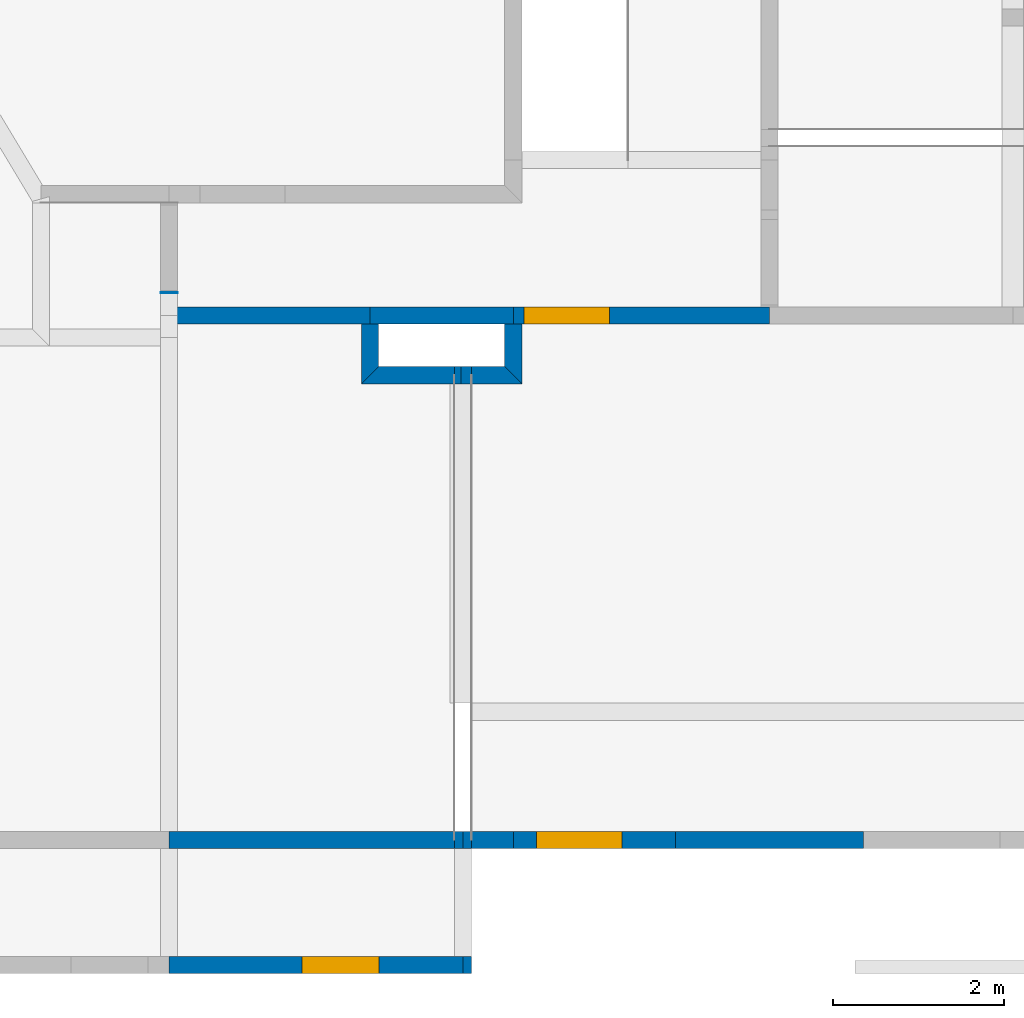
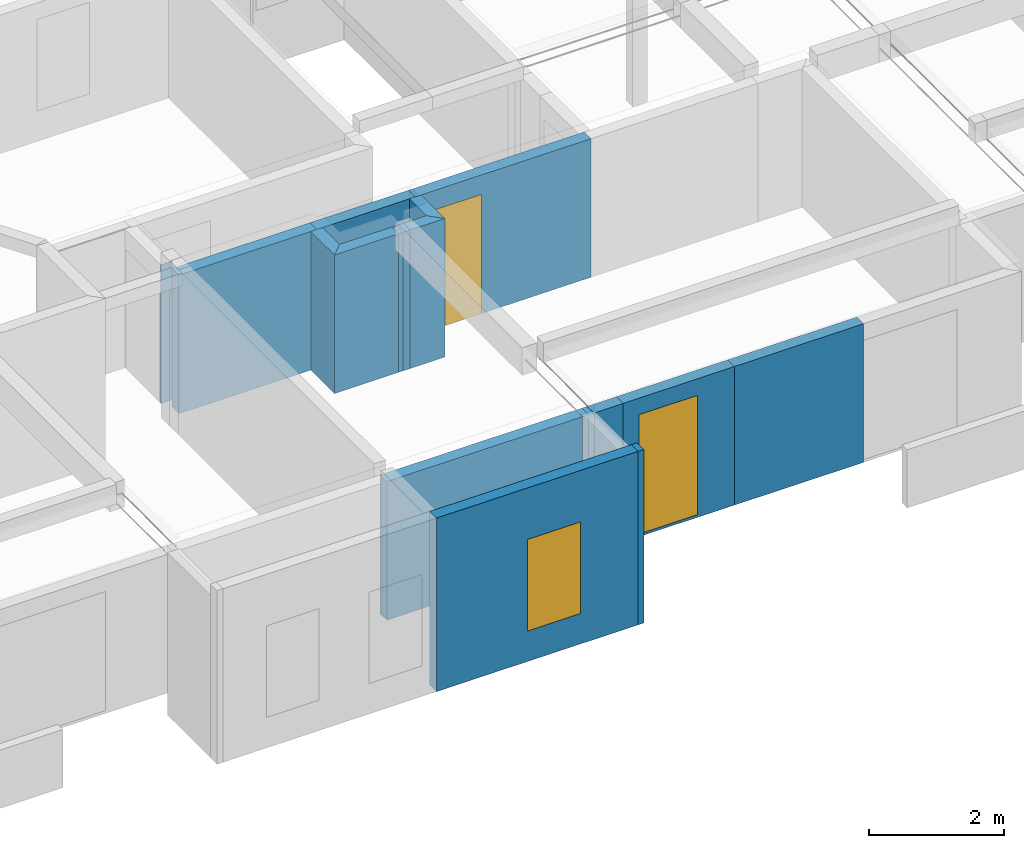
# One storey, part 5 of 8: 18 walls, 2 windows, 1 door, 3 openings.
"""IFC2X3 building model written with IfcOpenShell, lengths in metres."""

from ifc_helpers import new_model, si_unit, direction, frame, origin_with_axes, origin_2d, place, context, subcontext, project, spatial, polyline, rectangle, outline, extrude, material, layer, layer_set, layer_usage, type_object, element, fill, save


model = new_model("IFC2X3")

# Units and contexts
model_context = context("Model", 3, precision=0.0001, world=origin_with_axes(), true_north=direction((0.0, 1.0)))
plan_context = context("Plan", 2, precision=0.0001, world=origin_with_axes(), true_north=direction((0.0, 1.0)))
body_context = subcontext(model_context, "Body", "Model", "MODEL_VIEW")
ifc_project = project(units=[si_unit("MASSUNIT", "GRAM", prefix="KILO"), si_unit("AREAUNIT", "SQUARE_METRE"), si_unit("LENGTHUNIT", "METRE"), si_unit("VOLUMEUNIT", "CUBIC_METRE")], contexts=[plan_context, model_context])

# Site, building, storey
site_placement = place(None, origin_with_axes())
site = spatial("IfcSite", under=ifc_project, at=site_placement, Name="$", CompositionType="ELEMENT")
building_placement = place(site_placement, origin_with_axes())
building = spatial("IfcBuilding", under=site, at=building_placement, Name="Classeur ENS Ensemble", CompositionType="ELEMENT")
storey_placement = place(building_placement, frame((-20.30778888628, -1.812671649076, 3.3), z_axis=(0.0, 0.0, 1.0), x_axis=(1.0, 0.0, 0.0)))
storey = spatial("IfcBuildingStorey", under=building, at=storey_placement, Name="002 R+1", CompositionType="ELEMENT", Elevation=3.3)

# Walls
ifc_material_1 = material(Name="mur BBM 20 cm")
ifc_layer_1 = layer(ifc_material_1, 0.2000000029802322)
ifc_layer_set_1 = layer_set([ifc_layer_1], Name="mur BBM 20 cm+")
ifc_layer_usage_1 = layer_usage(ifc_layer_set_1, "AXIS2", "POSITIVE", -0.1000000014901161)
wall_type = type_object("IfcWallType", PredefinedType="STANDARD")
wall_1_placement = place(storey_placement, frame((33.28339579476, -11.56732532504, 0.0), z_axis=(0.0, 0.0, 1.0), x_axis=(1.0, 0.0, 0.0)))
element("IfcWall", 1, at=wall_1_placement, inside=storey, type_object=wall_type, material=ifc_layer_usage_1, Name="mur BBM 20 cm", context=body_context, shape_type="SweptSolid", held_by="IfcProductRepresentation", body=[
    extrude(outline(polyline([(0.0, 0.1000000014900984), (0.0, 0.1000000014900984), (0.0, 0.1000000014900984), (2.200000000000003, 0.1000000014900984), (2.200000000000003, 0.1000000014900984), (2.200000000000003, 0.1000000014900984), (2.200000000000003, -0.1000000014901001), (2.200000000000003, -0.1000000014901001), (2.200000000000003, -0.1000000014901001), (0.0, -0.1000000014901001), (0.0, -0.1000000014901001), (0.0, -0.1000000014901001), (0.0, 0.1000000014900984)])), origin_with_axes(), (0.0, 0.0, 1.0), 2.5),
])
ifc_material_2 = material(Name="voile BA 20 cm")
ifc_layer_2 = layer(ifc_material_2, 0.2000000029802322)
ifc_layer_set_2 = layer_set([ifc_layer_2], Name="voile BA 20 cm+")
ifc_layer_usage_2 = layer_usage(ifc_layer_set_2, "AXIS2", "POSITIVE", -0.1000000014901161)
wall_2_placement = place(storey_placement, frame((31.38339579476, -6.127325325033, 0.0), z_axis=(0.0, 0.0, 1.0), x_axis=(0.0, 0.9999999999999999, 0.0)))
element("IfcWall", 2, at=wall_2_placement, inside=storey, type_object=wall_type, material=ifc_layer_usage_2, Name="voile BA 20 cm", context=body_context, shape_type="SweptSolid", held_by="IfcProductRepresentation", body=[
    extrude(outline(polyline([(0.1000000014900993, 0.1000000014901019), (0.1000000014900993, 0.1000000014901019), (0.1000000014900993, 0.1000000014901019), (0.5999999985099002, 0.1000000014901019), (0.5999999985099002, 0.1000000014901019), (0.5999999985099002, 0.1000000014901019), (0.5999999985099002, -0.1000000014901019), (0.5999999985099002, -0.1000000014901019), (0.5999999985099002, -0.1000000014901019), (-0.1000000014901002, -0.1000000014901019), (-0.1000000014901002, -0.1000000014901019), (-0.1000000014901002, -0.1000000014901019), (0.1000000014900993, 0.1000000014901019)])), origin_with_axes(), (0.0, 0.0, 1.0), 2.5),
])
ifc_material_3 = material(Name="mur BBM 20 cm")
ifc_layer_3 = layer(ifc_material_3, 0.2000000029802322)
ifc_layer_set_3 = layer_set([ifc_layer_3], Name="mur BBM 20 cm+")
ifc_layer_usage_3 = layer_usage(ifc_layer_set_3, "AXIS2", "POSITIVE", -0.1000000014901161)
wall_3_placement = place(storey_placement, frame((27.35339579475, -11.56732532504, 0.0), z_axis=(0.0, 0.0, 1.0), x_axis=(1.0, 0.0, 0.0)))
element("IfcWall", 3, at=wall_3_placement, inside=storey, type_object=wall_type, material=ifc_layer_usage_3, Name="mur BBM 20 cm", context=body_context, shape_type="SweptSolid", held_by="IfcProductRepresentation", body=[
    extrude(outline(polyline([(0.0, 0.1000000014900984), (0.0, 0.1000000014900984), (0.0, 0.1000000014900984), (3.340000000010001, 0.1000000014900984), (3.340000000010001, 0.1000000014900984), (3.340000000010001, 0.1000000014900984), (3.340000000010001, -0.1000000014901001), (3.340000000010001, -0.1000000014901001), (3.340000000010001, -0.1000000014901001), (0.0, -0.1000000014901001), (0.0, -0.1000000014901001), (0.0, -0.1000000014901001), (0.0, 0.1000000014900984)])), origin_with_axes(), (0.0, 0.0, 1.0), 2.5),
])

# Wall, opening, window
ifc_material_4 = material(Name="mur BBM 20 cm")
ifc_layer_4 = layer(ifc_material_4, 0.2000000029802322)
ifc_layer_set_4 = layer_set([ifc_layer_4], Name="mur BBM 20 cm+")
ifc_layer_usage_4 = layer_usage(ifc_layer_set_4, "AXIS2", "POSITIVE", -0.1000000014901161)
wall_4_placement = place(storey_placement, frame((31.38339579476, -11.56732532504, 0.0), z_axis=(0.0, 0.0, 1.0), x_axis=(1.0, 0.0, 0.0)))
wall_4 = element("IfcWall", 4, at=wall_4_placement, inside=storey, type_object=wall_type, material=ifc_layer_usage_4, Name="mur BBM 20 cm", context=body_context, shape_type="SweptSolid", held_by="IfcProductRepresentation", body=[
    extrude(outline(polyline([(0.0, 0.1000000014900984), (0.0, 0.1000000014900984), (0.0, 0.1000000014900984), (1.899999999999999, 0.1000000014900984), (1.899999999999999, 0.1000000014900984), (1.899999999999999, 0.1000000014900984), (1.899999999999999, -0.1000000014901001), (1.899999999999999, -0.1000000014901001), (1.899999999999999, -0.1000000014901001), (0.0, -0.1000000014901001), (0.0, -0.1000000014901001), (0.0, -0.1000000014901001), (0.0, 0.1000000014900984)])), origin_with_axes(), (0.0, 0.0, 1.0), 2.5),
])
opening_1_placement = place(wall_4_placement, frame((0.772012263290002, 0.1000000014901, 0.05000000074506), z_axis=(0.0, 0.0, 1.0), x_axis=(1.0, 0.0, 0.0)))
opening_1 = element("IfcOpeningElement", 5, at=opening_1_placement, cuts=wall_4, Name="BL 100 x 215", context=body_context, shape_type="SweptSolid", held_by="IfcProductRepresentation", body=[
    extrude(rectangle(XDim=1.0, YDim=2.150000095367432, at=origin_2d()), frame((0.0, 0.0, 1.075000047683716), z_axis=(0.0, -1.0, 0.0), x_axis=(1.0, 0.0, 0.0)), (0.0, 0.0, 1.0), 0.2000000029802),
])
window_1_placement = place(opening_1_placement, origin_with_axes())
window_1 = element("IfcWindow", 6, at=window_1_placement, inside=storey, Name="BL 100 x 215", OverallHeight=2.150000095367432, OverallWidth=1.0, context=body_context, shape_type="SweptSolid", held_by="IfcProductRepresentation", body=[
    extrude(rectangle(XDim=1.0, YDim=2.150000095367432, at=origin_2d()), frame((0.0, 0.0, 1.075000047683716), z_axis=(0.0, -1.0, 0.0), x_axis=(1.0, 0.0, 0.0)), (0.0, 0.0, 1.0), 0.2000000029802),
])
fill(opening_1, window_1)

# Walls
ifc_material_5 = material(Name="mur BBM 20 cm")
ifc_layer_5 = layer(ifc_material_5, 0.2000000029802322)
ifc_layer_set_5 = layer_set([ifc_layer_5], Name="mur BBM 20 cm+")
ifc_layer_usage_5 = layer_usage(ifc_layer_set_5, "AXIS2", "POSITIVE", -0.1000000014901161)
wall_5_placement = place(storey_placement, frame((30.79339579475, -11.56732532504, 0.0), z_axis=(0.0, 0.0, 1.0), x_axis=(1.0, 0.0, 0.0)))
element("IfcWall", 7, at=wall_5_placement, inside=storey, type_object=wall_type, material=ifc_layer_usage_5, Name="mur BBM 20 cm", context=body_context, shape_type="SweptSolid", held_by="IfcProductRepresentation", body=[
    extrude(outline(polyline([(0.0, 0.1000000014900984), (0.0, 0.1000000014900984), (0.0, 0.1000000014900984), (0.1000000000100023, 0.1000000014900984), (0.1000000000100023, 0.1000000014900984), (0.1000000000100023, 0.1000000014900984), (0.1000000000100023, -0.1000000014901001), (0.1000000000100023, -0.1000000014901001), (0.1000000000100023, -0.1000000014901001), (0.0, -0.1000000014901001), (0.0, -0.1000000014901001), (0.0, -0.1000000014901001), (0.0, 0.1000000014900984)])), origin_with_axes(), (0.0, 0.0, 1.0), 2.5),
])
ifc_material_6 = material(Name="mur BBM 20 cm")
ifc_layer_6 = layer(ifc_material_6, 0.2000000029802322)
ifc_layer_set_6 = layer_set([ifc_layer_6], Name="mur BBM 20 cm+")
ifc_layer_usage_6 = layer_usage(ifc_layer_set_6, "AXIS2", "POSITIVE", -0.1000000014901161)
wall_6_placement = place(storey_placement, frame((27.35339579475, -5.167020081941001, 0.0), z_axis=(0.0, 0.0, 1.0), x_axis=(0.0, 1.0, 0.0)))
element("IfcWall", 8, at=wall_6_placement, inside=storey, type_object=wall_type, material=ifc_layer_usage_6, Name="mur BBM 20 cm", context=body_context, shape_type="SweptSolid", held_by="IfcProductRepresentation", body=[
    extrude(outline(polyline([(0.0, 0.1000000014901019), (0.0, 0.1000000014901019), (0.0, 0.1000000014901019), (0.009694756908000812, 0.1000000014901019), (0.009694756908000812, 0.1000000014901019), (0.009694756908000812, 0.1000000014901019), (0.009694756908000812, -0.1000000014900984), (0.009694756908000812, -0.1000000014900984), (0.009694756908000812, -0.1000000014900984), (0.0, -0.1000000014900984), (0.0, -0.1000000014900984), (0.0, -0.1000000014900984), (0.0, 0.1000000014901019)])), origin_with_axes(), (0.0, 0.0, 1.0), 2.5),
])
ifc_material_7 = material(Name="voile BA 20 cm")
ifc_layer_7 = layer(ifc_material_7, 0.2000000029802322)
ifc_layer_set_7 = layer_set([ifc_layer_7], Name="voile BA 20 cm+")
ifc_layer_usage_7 = layer_usage(ifc_layer_set_7, "AXIS2", "POSITIVE", -0.1000000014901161)
wall_7_placement = place(storey_placement, frame((27.35339579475, -5.427325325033, 0.0), z_axis=(0.0, 0.0, 1.0), x_axis=(1.0, 0.0, 0.0)))
element("IfcWall", 9, at=wall_7_placement, inside=storey, type_object=wall_type, material=ifc_layer_usage_7, Name="voile BA 20 cm", context=body_context, shape_type="SweptSolid", held_by="IfcProductRepresentation", body=[
    extrude(outline(polyline([(0.0, 0.1000000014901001), (0.0, 0.1000000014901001), (0.0, 0.1000000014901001), (2.349999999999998, 0.1000000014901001), (2.349999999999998, 0.1000000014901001), (2.349999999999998, 0.1000000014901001), (2.349999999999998, -0.1000000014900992), (2.249999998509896, -0.1000000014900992), (2.249999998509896, -0.1000000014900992), (0.0, -0.1000000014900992), (0.0, -0.1000000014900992), (0.0, -0.1000000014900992), (0.0, 0.1000000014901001)])), origin_with_axes(), (0.0, 0.0, 1.0), 2.5),
])

# Wall, opening, door
ifc_material_8 = material(Name="voile BA 20 cm")
ifc_layer_8 = layer(ifc_material_8, 0.2000000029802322)
ifc_layer_set_8 = layer_set([ifc_layer_8], Name="voile BA 20 cm+")
ifc_layer_usage_8 = layer_usage(ifc_layer_set_8, "AXIS2", "POSITIVE", -0.1000000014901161)
wall_8_placement = place(storey_placement, frame((31.38339579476, -5.427325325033, 0.0), z_axis=(0.0, 0.0, 1.0), x_axis=(1.0, 0.0, 0.0)))
wall_8 = element("IfcWall", 10, at=wall_8_placement, inside=storey, type_object=wall_type, material=ifc_layer_usage_8, Name="voile BA 20 cm", context=body_context, shape_type="SweptSolid", held_by="IfcProductRepresentation", body=[
    extrude(outline(polyline([(0.0, 0.1000000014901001), (0.0, 0.1000000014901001), (0.0, 0.1000000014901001), (2.899999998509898, 0.1000000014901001), (2.899999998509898, 0.1000000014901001), (3.0, 0.1000000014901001), (3.0, -0.1000000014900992), (3.0, -0.1000000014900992), (3.0, -0.1000000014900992), (0.1000000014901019, -0.1000000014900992), (0.1000000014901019, -0.1000000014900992), (0.0, -0.1000000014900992), (0.0, 0.1000000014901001)])), origin_with_axes(), (0.0, 0.0, 1.0), 2.5),
])
opening_2_placement = place(wall_8_placement, frame((0.6281936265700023, 0.1000000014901, 0.0), z_axis=(0.0, 0.0, 1.0), x_axis=(1.0, 0.0, 0.0)))
opening_2 = element("IfcOpeningElement", 11, at=opening_2_placement, cuts=wall_8, Name="PE 93 x 215", context=body_context, shape_type="SweptSolid", held_by="IfcProductRepresentation", body=[
    extrude(rectangle(XDim=1.0, YDim=2.150000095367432, at=origin_2d()), frame((0.0, 0.0, 1.075000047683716), z_axis=(0.0, -1.0, 0.0), x_axis=(1.0, 0.0, 0.0)), (0.0, 0.0, 1.0), 0.2000000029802),
])
door_placement = place(opening_2_placement, origin_with_axes())
door = element("IfcDoor", 12, at=door_placement, inside=storey, Name="PE 93 x 215", OverallHeight=2.150000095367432, OverallWidth=1.0, context=body_context, shape_type="SweptSolid", held_by="IfcProductRepresentation", body=[
    extrude(rectangle(XDim=1.0, YDim=2.150000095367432, at=origin_2d()), frame((0.0, 0.0, 1.075000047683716), z_axis=(0.0, -1.0, 0.0), x_axis=(1.0, 0.0, 0.0)), (0.0, 0.0, 1.0), 0.2000000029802),
])
fill(opening_2, door)

# Walls
ifc_material_9 = material(Name="voile BA 20 cm")
ifc_layer_9 = layer(ifc_material_9, 0.2000000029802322)
ifc_layer_set_9 = layer_set([ifc_layer_9], Name="voile BA 20 cm+")
ifc_layer_usage_9 = layer_usage(ifc_layer_set_9, "AXIS2", "POSITIVE", -0.1000000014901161)
wall_9_placement = place(storey_placement, frame((29.70339579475, -6.127325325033, 0.0), z_axis=(0.0, 0.0, 1.0), x_axis=(0.0, 0.9999999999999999, 0.0)))
element("IfcWall", 13, at=wall_9_placement, inside=storey, type_object=wall_type, material=ifc_layer_usage_9, Name="voile BA 20 cm", context=body_context, shape_type="SweptSolid", held_by="IfcProductRepresentation", body=[
    extrude(outline(polyline([(-0.1000000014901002, 0.1000000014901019), (-0.1000000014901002, 0.1000000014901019), (-0.1000000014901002, 0.1000000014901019), (0.5999999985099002, 0.1000000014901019), (0.5999999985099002, 0.1000000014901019), (0.5999999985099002, 0.1000000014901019), (0.5999999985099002, -0.1000000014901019), (0.5999999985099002, -0.1000000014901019), (0.5999999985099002, -0.1000000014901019), (0.1000000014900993, -0.1000000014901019), (0.1000000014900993, -0.1000000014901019), (0.1000000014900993, -0.1000000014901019), (-0.1000000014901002, 0.1000000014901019)])), origin_with_axes(), (0.0, 0.0, 1.0), 2.5),
])
ifc_material_10 = material(Name="voile BA 20 cm")
ifc_layer_10 = layer(ifc_material_10, 0.2000000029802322)
ifc_layer_set_10 = layer_set([ifc_layer_10], Name="voile BA 20 cm+")
ifc_layer_usage_10 = layer_usage(ifc_layer_set_10, "AXIS2", "POSITIVE", -0.1000000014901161)
wall_10_placement = place(storey_placement, frame((29.70339579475, -5.427325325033, 0.0), z_axis=(0.0, 0.0, 1.0), x_axis=(1.0, 0.0, 0.0)))
element("IfcWall", 14, at=wall_10_placement, inside=storey, type_object=wall_type, material=ifc_layer_usage_10, Name="voile BA 20 cm", context=body_context, shape_type="SweptSolid", held_by="IfcProductRepresentation", body=[
    extrude(outline(polyline([(0.0, 0.1000000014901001), (0.0, 0.1000000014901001), (0.0, 0.1000000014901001), (1.680000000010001, 0.1000000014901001), (1.680000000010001, 0.1000000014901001), (1.680000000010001, 0.1000000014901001), (1.680000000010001, -0.1000000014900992), (1.579999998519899, -0.1000000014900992), (1.579999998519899, -0.1000000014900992), (0.1000000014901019, -0.1000000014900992), (0.1000000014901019, -0.1000000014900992), (0.0, -0.1000000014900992), (0.0, 0.1000000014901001)])), origin_with_axes(), (0.0, 0.0, 1.0), 2.5),
])
ifc_material_11 = material(Name="voile BA 20 cm")
ifc_layer_11 = layer(ifc_material_11, 0.2000000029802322)
ifc_layer_set_11 = layer_set([ifc_layer_11], Name="voile BA 20 cm+")
ifc_layer_usage_11 = layer_usage(ifc_layer_set_11, "AXIS2", "POSITIVE", -0.1000000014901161)
wall_11_placement = place(storey_placement, frame((29.70339579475, -6.127325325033, 0.0), z_axis=(0.0, 0.0, 1.0), x_axis=(1.0, 0.0, 0.0)))
element("IfcWall", 15, at=wall_11_placement, inside=storey, type_object=wall_type, material=ifc_layer_usage_11, Name="voile BA 20 cm", context=body_context, shape_type="SweptSolid", held_by="IfcProductRepresentation", body=[
    extrude(outline(polyline([(0.1000000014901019, 0.1000000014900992), (0.1000000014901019, 0.1000000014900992), (0.1000000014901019, 0.1000000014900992), (0.9900000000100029, 0.1000000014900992), (0.9900000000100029, 0.1000000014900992), (0.9900000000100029, 0.1000000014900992), (0.9900000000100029, -0.1000000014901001), (0.9900000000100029, -0.1000000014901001), (0.9900000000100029, -0.1000000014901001), (-0.1000000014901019, -0.1000000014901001), (-0.1000000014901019, -0.1000000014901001), (-0.1000000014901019, -0.1000000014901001), (0.1000000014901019, 0.1000000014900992)])), origin_with_axes(), (0.0, 0.0, 1.0), 2.5),
])
ifc_material_12 = material(Name="mur BBM 20 cm")
ifc_layer_12 = layer(ifc_material_12, 0.2000000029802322)
ifc_layer_set_12 = layer_set([ifc_layer_12], Name="mur BBM 20 cm+")
ifc_layer_usage_12 = layer_usage(ifc_layer_set_12, "AXIS2", "POSITIVE", -0.1000000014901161)
wall_12_placement = place(storey_placement, frame((30.89339579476, -11.56732532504, 0.0), z_axis=(0.0, 0.0, 1.0), x_axis=(1.0, 0.0, 0.0)))
element("IfcWall", 16, at=wall_12_placement, inside=storey, type_object=wall_type, material=ifc_layer_usage_12, Name="mur BBM 20 cm", context=body_context, shape_type="SweptSolid", held_by="IfcProductRepresentation", body=[
    extrude(outline(polyline([(0.0, 0.1000000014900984), (0.0, 0.1000000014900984), (0.0, 0.1000000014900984), (0.4899999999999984, 0.1000000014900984), (0.4899999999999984, 0.1000000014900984), (0.4899999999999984, 0.1000000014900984), (0.4899999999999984, -0.1000000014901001), (0.4899999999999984, -0.1000000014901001), (0.4899999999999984, -0.1000000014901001), (0.0, -0.1000000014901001), (0.0, -0.1000000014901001), (0.0, -0.1000000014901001), (0.0, 0.1000000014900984)])), origin_with_axes(), (0.0, 0.0, 1.0), 2.5),
])
ifc_material_13 = material(Name="mur BBM 20 cm")
ifc_layer_13 = layer(ifc_material_13, 0.2000000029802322)
ifc_layer_set_13 = layer_set([ifc_layer_13], Name="mur BBM 20 cm+")
ifc_layer_usage_13 = layer_usage(ifc_layer_set_13, "AXIS2", "POSITIVE", -0.1000000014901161)
wall_13_placement = place(storey_placement, frame((30.69339579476, -11.56732532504, 0.0), z_axis=(0.0, 0.0, 1.0), x_axis=(1.0, 0.0, 0.0)))
element("IfcWall", 17, at=wall_13_placement, inside=storey, type_object=wall_type, material=ifc_layer_usage_13, Name="mur BBM 20 cm", context=body_context, shape_type="SweptSolid", held_by="IfcProductRepresentation", body=[
    extrude(outline(polyline([(0.0, 0.1000000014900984), (0.0, 0.1000000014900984), (0.0, 0.1000000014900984), (0.09999999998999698, 0.1000000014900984), (0.09999999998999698, 0.1000000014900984), (0.09999999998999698, 0.1000000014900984), (0.09999999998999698, -0.1000000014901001), (0.09999999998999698, -0.1000000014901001), (0.09999999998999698, -0.1000000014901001), (0.0, -0.1000000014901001), (0.0, -0.1000000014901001), (0.0, -0.1000000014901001), (0.0, 0.1000000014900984)])), origin_with_axes(), (0.0, 0.0, 1.0), 2.5),
])
ifc_material_14 = material(Name="voile BA 20 cm")
ifc_layer_14 = layer(ifc_material_14, 0.2000000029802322)
ifc_layer_set_14 = layer_set([ifc_layer_14], Name="voile BA 20 cm+")
ifc_layer_usage_14 = layer_usage(ifc_layer_set_14, "AXIS2", "POSITIVE", -0.1000000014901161)
wall_14_placement = place(storey_placement, frame((30.69339579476, -6.127325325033, 0.0), z_axis=(0.0, 0.0, 1.0), x_axis=(1.0, 0.0, 0.0)))
element("IfcWall", 18, at=wall_14_placement, inside=storey, type_object=wall_type, material=ifc_layer_usage_14, Name="voile BA 20 cm", context=body_context, shape_type="SweptSolid", held_by="IfcProductRepresentation", body=[
    extrude(outline(polyline([(0.0, 0.1000000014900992), (0.0, 0.1000000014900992), (0.0, 0.1000000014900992), (0.07499999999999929, 0.1000000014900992), (0.07499999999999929, 0.1000000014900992), (0.07499999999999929, 0.1000000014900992), (0.07499999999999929, -0.1000000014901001), (0.07499999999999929, -0.1000000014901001), (0.07499999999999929, -0.1000000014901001), (0.0, -0.1000000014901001), (0.0, -0.1000000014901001), (0.0, -0.1000000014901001), (0.0, 0.1000000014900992)])), origin_with_axes(), (0.0, 0.0, 1.0), 2.5),
])
ifc_material_15 = material(Name="voile BA 20 cm")
ifc_layer_15 = layer(ifc_material_15, 0.2000000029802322)
ifc_layer_set_15 = layer_set([ifc_layer_15], Name="voile BA 20 cm+")
ifc_layer_usage_15 = layer_usage(ifc_layer_set_15, "AXIS2", "POSITIVE", -0.1000000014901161)
wall_15_placement = place(storey_placement, frame((30.89339579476, -6.127325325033, 0.0), z_axis=(0.0, 0.0, 1.0), x_axis=(1.0, 0.0, 0.0)))
element("IfcWall", 19, at=wall_15_placement, inside=storey, type_object=wall_type, material=ifc_layer_usage_15, Name="voile BA 20 cm", context=body_context, shape_type="SweptSolid", held_by="IfcProductRepresentation", body=[
    extrude(outline(polyline([(0.0, 0.1000000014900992), (0.0, 0.1000000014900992), (0.0, 0.1000000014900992), (0.3899999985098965, 0.1000000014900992), (0.3899999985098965, 0.1000000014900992), (0.3899999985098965, 0.1000000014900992), (0.5900000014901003, -0.1000000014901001), (0.5900000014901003, -0.1000000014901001), (0.5900000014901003, -0.1000000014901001), (0.0, -0.1000000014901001), (0.0, -0.1000000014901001), (0.0, -0.1000000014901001), (0.0, 0.1000000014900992)])), origin_with_axes(), (0.0, 0.0, 1.0), 2.5),
])

# Wall, opening, window
ifc_material_16 = material(Name="PV BA 20 cm")
ifc_layer_16 = layer(ifc_material_16, 0.2000000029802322)
ifc_layer_set_16 = layer_set([ifc_layer_16], Name="PV BA 20 cm+")
ifc_layer_usage_16 = layer_usage(ifc_layer_set_16, "AXIS2", "POSITIVE", -0.1000000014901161)
wall_16_placement = place(storey_placement, frame((27.35339579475, -13.03232532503, -0.4000000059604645), z_axis=(0.0, 0.0, 1.0), x_axis=(1.0, 0.0, 0.0)))
wall_16 = element("IfcWall", 20, at=wall_16_placement, inside=storey, type_object=wall_type, material=ifc_layer_usage_16, Name="PV BA 20 cm", context=body_context, shape_type="SweptSolid", held_by="IfcProductRepresentation", body=[
    extrude(outline(polyline([(0.0, 0.1000000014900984), (0.0, 0.1000000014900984), (0.0, 0.1000000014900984), (3.439999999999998, 0.1000000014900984), (3.439999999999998, 0.1000000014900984), (3.439999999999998, 0.1000000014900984), (3.439999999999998, -0.1000000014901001), (3.439999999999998, -0.1000000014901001), (3.439999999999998, -0.1000000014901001), (0.0, -0.1000000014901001), (0.0, -0.1000000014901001), (0.0, -0.1000000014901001), (0.0, 0.1000000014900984)])), origin_with_axes(), (0.0, 0.0, 1.0), 3.130000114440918),
])
opening_3_placement = place(wall_16_placement, frame((2.006413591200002, 0.1000000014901, 0.5500000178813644), z_axis=(0.0, 0.0, 1.0), x_axis=(1.0, 0.0, 0.0)))
opening_3 = element("IfcOpeningElement", 21, at=opening_3_placement, cuts=wall_16, Name="BL 90 x 165", context=body_context, shape_type="SweptSolid", held_by="IfcProductRepresentation", body=[
    extrude(rectangle(XDim=0.8999999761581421, YDim=1.649999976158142, at=origin_2d()), frame((0.0, 0.0, 0.824999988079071), z_axis=(0.0, -1.0, 0.0), x_axis=(1.0, 0.0, 0.0)), (0.0, 0.0, 1.0), 0.2000000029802),
])
window_2_placement = place(opening_3_placement, origin_with_axes())
window_2 = element("IfcWindow", 22, at=window_2_placement, inside=storey, Name="BL 90 x 165", OverallHeight=1.649999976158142, OverallWidth=0.8999999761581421, context=body_context, shape_type="SweptSolid", held_by="IfcProductRepresentation", body=[
    extrude(rectangle(XDim=0.8999999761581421, YDim=1.649999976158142, at=origin_2d()), frame((0.0, 0.0, 0.824999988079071), z_axis=(0.0, -1.0, 0.0), x_axis=(1.0, 0.0, 0.0)), (0.0, 0.0, 1.0), 0.2000000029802),
])
fill(opening_3, window_2)

# Walls
ifc_material_17 = material(Name="PV BA 20 cm")
ifc_layer_17 = layer(ifc_material_17, 0.2000000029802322)
ifc_layer_set_17 = layer_set([ifc_layer_17], Name="PV BA 20 cm+")
ifc_layer_usage_17 = layer_usage(ifc_layer_set_17, "AXIS2", "POSITIVE", -0.1000000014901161)
wall_17_placement = place(storey_placement, frame((30.79339579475, -13.03232532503, -0.4000000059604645), z_axis=(0.0, 0.0, 1.0), x_axis=(1.0, 0.0, 0.0)))
element("IfcWall", 23, at=wall_17_placement, inside=storey, type_object=wall_type, material=ifc_layer_usage_17, Name="PV BA 20 cm", context=body_context, shape_type="SweptSolid", held_by="IfcProductRepresentation", body=[
    extrude(outline(polyline([(0.0, 0.1000000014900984), (0.0, 0.1000000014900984), (0.0, 0.1000000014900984), (0.1000000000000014, 0.1000000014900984), (0.1000000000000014, 0.1000000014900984), (0.1000000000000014, 0.1000000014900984), (0.1000000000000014, -0.1000000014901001), (0.1000000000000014, -0.1000000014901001), (0.1000000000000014, -0.1000000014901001), (0.0, -0.1000000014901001), (0.0, -0.1000000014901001), (0.0, -0.1000000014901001), (0.0, 0.1000000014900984)])), origin_with_axes(), (0.0, 0.0, 1.0), 3.130000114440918),
])
ifc_material_18 = material(Name="voile BA 20 cm")
ifc_layer_18 = layer(ifc_material_18, 0.2000000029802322)
ifc_layer_set_18 = layer_set([ifc_layer_18], Name="voile BA 20 cm+")
ifc_layer_usage_18 = layer_usage(ifc_layer_set_18, "AXIS2", "POSITIVE", -0.1000000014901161)
wall_18_placement = place(storey_placement, frame((30.76839579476, -6.127325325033, 0.0), z_axis=(0.0, 0.0, 1.0), x_axis=(1.0, 0.0, 0.0)))
element("IfcWall", 24, at=wall_18_placement, inside=storey, type_object=wall_type, material=ifc_layer_usage_18, Name="voile BA 20 cm", context=body_context, shape_type="SweptSolid", held_by="IfcProductRepresentation", body=[
    extrude(outline(polyline([(0.0, 0.1000000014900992), (0.0, 0.1000000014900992), (0.0, 0.1000000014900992), (0.125, 0.1000000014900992), (0.125, 0.1000000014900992), (0.125, 0.1000000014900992), (0.125, -0.1000000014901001), (0.125, -0.1000000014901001), (0.125, -0.1000000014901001), (0.0, -0.1000000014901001), (0.0, -0.1000000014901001), (0.0, -0.1000000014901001), (0.0, 0.1000000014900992)])), origin_with_axes(), (0.0, 0.0, 1.0), 2.5),
])

save(model, "model.ifc")
